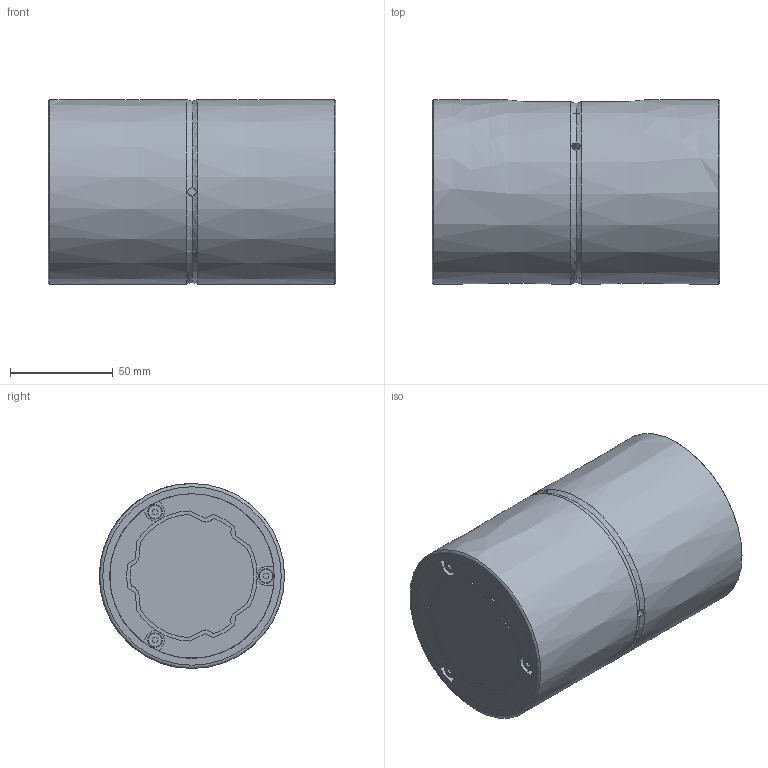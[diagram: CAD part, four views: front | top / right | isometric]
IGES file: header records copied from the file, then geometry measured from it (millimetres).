
Start section: Data from Parasolid IGES Translator 26.0.171, Copyright(c) 2006 Siemens PLM Software. All Rights Reserved.
Global section: file name: SLS60L1140(00).igs; native system: By Siemens PLM Incorporated; preprocessor: XPlus GENERIC/IGES 26.0.171; author: Noname; organization: Noname; date: 20240523.114707; units: millimetre
Bounding box: 140 x 90 x 90 mm (x, y, z)
Surface area: 109033.1 mm2 (no closed solid volume)
Topology: 0 solids, 0 shells, 253 faces, 1390 edges, 1357 vertices
Faces by surface type: extrusion 132, revolution 121
